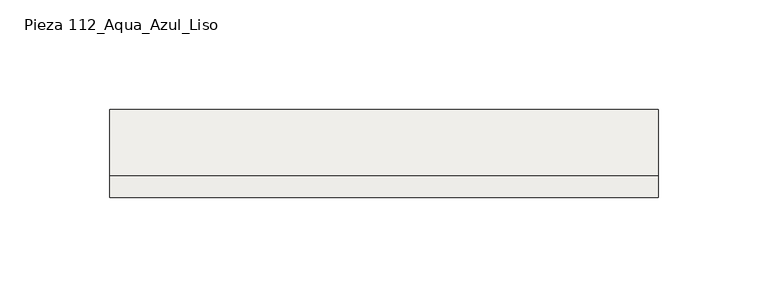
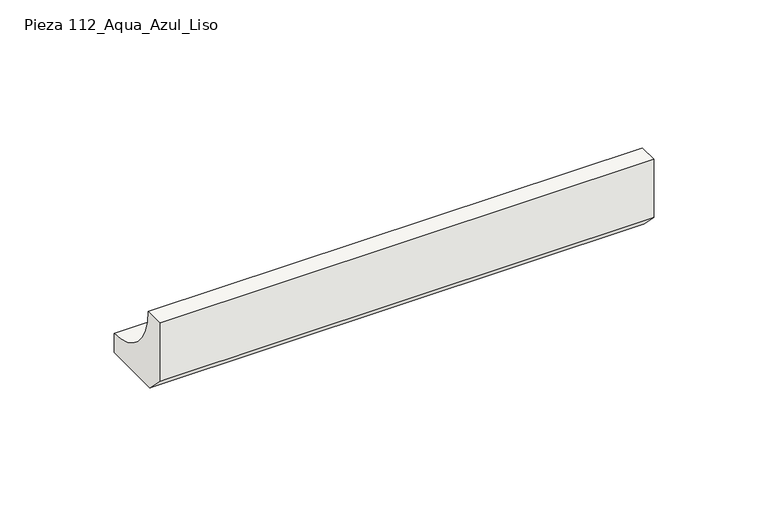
"""IFC4 building model written with IfcOpenShell, lengths in millimetres: slab geometry, ROSA GRES_112 : Pieza 112_Aqua_Azul_Liso."""

from ifc_helpers import new_model, si_unit, point, frame, frame_2d, origin, place, context, project, spatial, polyline, circle_curve, trimmed, segment, composite_curve, outline, extrude, source, transform, mapped, element, save


def pieza_112_aqua_azul_liso_c8623fd9(model_context):
    return source(origin(), model_context, "Body", "SweptSolid", [
        extrude(outline(composite_curve([segment(polyline([(0.0, 8.7114978), (0.0, 40.0), (9.9734114, 40.0)]), True, "CONTINUOUS"), segment(trimmed(circle_curve(frame_2d((39.9955547, 39.9955547)), 30.0221435), [point((9.9734114, 40.0))], [point((40.0, 9.9734114))], True, "CARTESIAN"), True, "CONTINUOUS"), segment(polyline([(40.0, 9.9734114), (40.0, 0.0), (8.7114978, 0.0), (0.0, 8.7114978)]), True, "CONTINUOUS")], self_intersect=False)), frame((0.0, 0.0, 0.0), z_axis=(1.0, 0.0, 0.0), x_axis=(0.0, 1.0, 0.0)), (0.0, 0.0, 1.0), 249.9468229),
    ])


if __name__ == "__main__":
    model = new_model("IFC4")
    model_context = context("Model", 3, world=origin())
    ifc_project = project(units=[si_unit("LENGTHUNIT", "METRE", prefix="MILLI")], contexts=[model_context])
    site = spatial("IfcSite", under=ifc_project)
    building = spatial("IfcBuilding", under=site)
    placement = place(None, origin())
    pieza_112_aqua_azul_liso_shape = pieza_112_aqua_azul_liso_c8623fd9(model_context)
    element("IfcSlab", 1, ObjectType="ROSA GRES_112 : Pieza 112_Aqua_Azul_Liso", at=placement, inside=building, context=model_context, shape_type="MappedRepresentation", body=[
        mapped(pieza_112_aqua_azul_liso_shape, transform((0.0, 0.0, 0.0), x_axis=(1.0, 0.0, 0.0), y_axis=(0.0, 1.0, 0.0), z_axis=(0.0, 0.0, 1.0))),
    ])
    save(model, "model.ifc")
